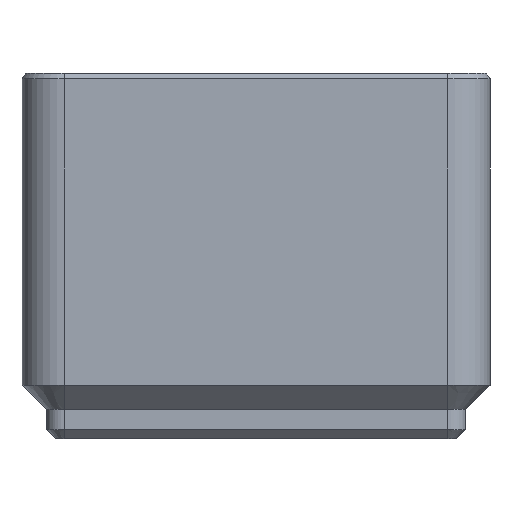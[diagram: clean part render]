
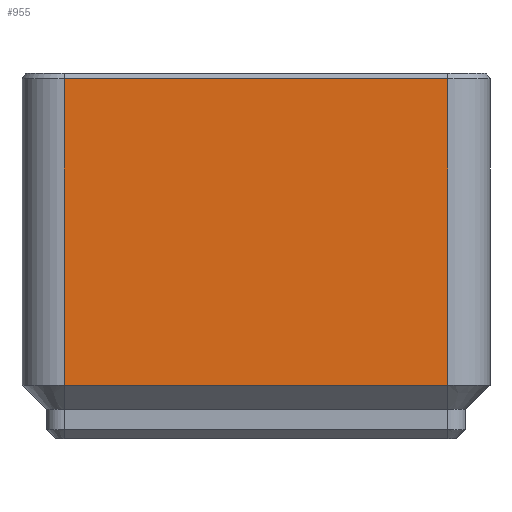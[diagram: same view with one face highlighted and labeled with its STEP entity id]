
A CAD part, left-side view. The second image highlights one B-rep face of the part: STEP entity #955.
In plain terms, the highlighted planar face has unit normal (-1, 0, 0).
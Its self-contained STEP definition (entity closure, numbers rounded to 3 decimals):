
#72 = PLANE('',#73);
#73 = AXIS2_PLACEMENT_3D('',#74,#75,#76);
#74 = CARTESIAN_POINT('',(-41.75,0.,4.75));
#75 = DIRECTION('',(-0.707,0.,-0.707));
#76 = DIRECTION('',(0.,-1.,-0.));
#387 = VERTEX_POINT('',#388);
#388 = CARTESIAN_POINT('',(-41.75,-17.,4.75));
#406 = EDGE_CURVE('',#387,#407,#409,.T.);
#407 = VERTEX_POINT('',#408);
#408 = CARTESIAN_POINT('',(-41.75,17.,4.75));
#409 = SURFACE_CURVE('',#410,(#414,#421),.PCURVE_S1.);
#410 = LINE('',#411,#412);
#411 = CARTESIAN_POINT('',(-41.75,0.,4.75));
#412 = VECTOR('',#413,1.);
#413 = DIRECTION('',(0.,1.,0.));
#414 = PCURVE('',#72,#415);
#415 = DEFINITIONAL_REPRESENTATION('',(#416),#420);
#416 = LINE('',#417,#418);
#417 = CARTESIAN_POINT('',(0.,0.));
#418 = VECTOR('',#419,1.);
#419 = DIRECTION('',(-1.,0.));
#420 = ( GEOMETRIC_REPRESENTATION_CONTEXT(2) 
PARAMETRIC_REPRESENTATION_CONTEXT() REPRESENTATION_CONTEXT('2D SPACE',''
  ) );
#421 = PCURVE('',#422,#427);
#422 = PLANE('',#423);
#423 = AXIS2_PLACEMENT_3D('',#424,#425,#426);
#424 = CARTESIAN_POINT('',(-41.75,-17.,4.75));
#425 = DIRECTION('',(-1.,0.,0.));
#426 = DIRECTION('',(0.,1.,0.));
#427 = DEFINITIONAL_REPRESENTATION('',(#428),#432);
#428 = LINE('',#429,#430);
#429 = CARTESIAN_POINT('',(17.,0.));
#430 = VECTOR('',#431,1.);
#431 = DIRECTION('',(1.,0.));
#432 = ( GEOMETRIC_REPRESENTATION_CONTEXT(2) 
PARAMETRIC_REPRESENTATION_CONTEXT() REPRESENTATION_CONTEXT('2D SPACE',''
  ) );
#624 = CYLINDRICAL_SURFACE('',#625,3.75);
#625 = AXIS2_PLACEMENT_3D('',#626,#627,#628);
#626 = CARTESIAN_POINT('',(-38.,-17.,4.75));
#627 = DIRECTION('',(-0.,-0.,-1.));
#628 = DIRECTION('',(1.,0.,0.));
#791 = CYLINDRICAL_SURFACE('',#792,3.75);
#792 = AXIS2_PLACEMENT_3D('',#793,#794,#795);
#793 = CARTESIAN_POINT('',(-38.,17.,4.75));
#794 = DIRECTION('',(-0.,-0.,-1.));
#795 = DIRECTION('',(1.,0.,0.));
#955 = ADVANCED_FACE('',(#956),#422,.T.);
#956 = FACE_BOUND('',#957,.T.);
#957 = EDGE_LOOP('',(#958,#981,#1009,#1030));
#958 = ORIENTED_EDGE('',*,*,#959,.T.);
#959 = EDGE_CURVE('',#387,#960,#962,.T.);
#960 = VERTEX_POINT('',#961);
#961 = CARTESIAN_POINT('',(-41.75,-17.,31.9));
#962 = SURFACE_CURVE('',#963,(#967,#974),.PCURVE_S1.);
#963 = LINE('',#964,#965);
#964 = CARTESIAN_POINT('',(-41.75,-17.,4.75));
#965 = VECTOR('',#966,1.);
#966 = DIRECTION('',(0.,0.,1.));
#967 = PCURVE('',#422,#968);
#968 = DEFINITIONAL_REPRESENTATION('',(#969),#973);
#969 = LINE('',#970,#971);
#970 = CARTESIAN_POINT('',(0.,0.));
#971 = VECTOR('',#972,1.);
#972 = DIRECTION('',(0.,-1.));
#973 = ( GEOMETRIC_REPRESENTATION_CONTEXT(2) 
PARAMETRIC_REPRESENTATION_CONTEXT() REPRESENTATION_CONTEXT('2D SPACE',''
  ) );
#974 = PCURVE('',#624,#975);
#975 = DEFINITIONAL_REPRESENTATION('',(#976),#980);
#976 = LINE('',#977,#978);
#977 = CARTESIAN_POINT('',(-3.142,0.));
#978 = VECTOR('',#979,1.);
#979 = DIRECTION('',(-0.,-1.));
#980 = ( GEOMETRIC_REPRESENTATION_CONTEXT(2) 
PARAMETRIC_REPRESENTATION_CONTEXT() REPRESENTATION_CONTEXT('2D SPACE',''
  ) );
#981 = ORIENTED_EDGE('',*,*,#982,.T.);
#982 = EDGE_CURVE('',#960,#983,#985,.T.);
#983 = VERTEX_POINT('',#984);
#984 = CARTESIAN_POINT('',(-41.75,17.,31.9));
#985 = SURFACE_CURVE('',#986,(#990,#997),.PCURVE_S1.);
#986 = LINE('',#987,#988);
#987 = CARTESIAN_POINT('',(-41.75,0.,31.9));
#988 = VECTOR('',#989,1.);
#989 = DIRECTION('',(0.,1.,0.));
#990 = PCURVE('',#422,#991);
#991 = DEFINITIONAL_REPRESENTATION('',(#992),#996);
#992 = LINE('',#993,#994);
#993 = CARTESIAN_POINT('',(17.,-27.15));
#994 = VECTOR('',#995,1.);
#995 = DIRECTION('',(1.,0.));
#996 = ( GEOMETRIC_REPRESENTATION_CONTEXT(2) 
PARAMETRIC_REPRESENTATION_CONTEXT() REPRESENTATION_CONTEXT('2D SPACE',''
  ) );
#997 = PCURVE('',#998,#1003);
#998 = PLANE('',#999);
#999 = AXIS2_PLACEMENT_3D('',#1000,#1001,#1002);
#1000 = CARTESIAN_POINT('',(-41.4,0.,32.4));
#1001 = DIRECTION('',(-0.819,0.,0.573));
#1002 = DIRECTION('',(-0.,-1.,0.));
#1003 = DEFINITIONAL_REPRESENTATION('',(#1004),#1008);
#1004 = LINE('',#1005,#1006);
#1005 = CARTESIAN_POINT('',(0.,-0.61));
#1006 = VECTOR('',#1007,1.);
#1007 = DIRECTION('',(-1.,0.));
#1008 = ( GEOMETRIC_REPRESENTATION_CONTEXT(2) 
PARAMETRIC_REPRESENTATION_CONTEXT() REPRESENTATION_CONTEXT('2D SPACE',''
  ) );
#1009 = ORIENTED_EDGE('',*,*,#1010,.F.);
#1010 = EDGE_CURVE('',#407,#983,#1011,.T.);
#1011 = SURFACE_CURVE('',#1012,(#1016,#1023),.PCURVE_S1.);
#1012 = LINE('',#1013,#1014);
#1013 = CARTESIAN_POINT('',(-41.75,17.,4.75));
#1014 = VECTOR('',#1015,1.);
#1015 = DIRECTION('',(0.,0.,1.));
#1016 = PCURVE('',#422,#1017);
#1017 = DEFINITIONAL_REPRESENTATION('',(#1018),#1022);
#1018 = LINE('',#1019,#1020);
#1019 = CARTESIAN_POINT('',(34.,0.));
#1020 = VECTOR('',#1021,1.);
#1021 = DIRECTION('',(0.,-1.));
#1022 = ( GEOMETRIC_REPRESENTATION_CONTEXT(2) 
PARAMETRIC_REPRESENTATION_CONTEXT() REPRESENTATION_CONTEXT('2D SPACE',''
  ) );
#1023 = PCURVE('',#791,#1024);
#1024 = DEFINITIONAL_REPRESENTATION('',(#1025),#1029);
#1025 = LINE('',#1026,#1027);
#1026 = CARTESIAN_POINT('',(-3.142,0.));
#1027 = VECTOR('',#1028,1.);
#1028 = DIRECTION('',(-0.,-1.));
#1029 = ( GEOMETRIC_REPRESENTATION_CONTEXT(2) 
PARAMETRIC_REPRESENTATION_CONTEXT() REPRESENTATION_CONTEXT('2D SPACE',''
  ) );
#1030 = ORIENTED_EDGE('',*,*,#406,.F.);
